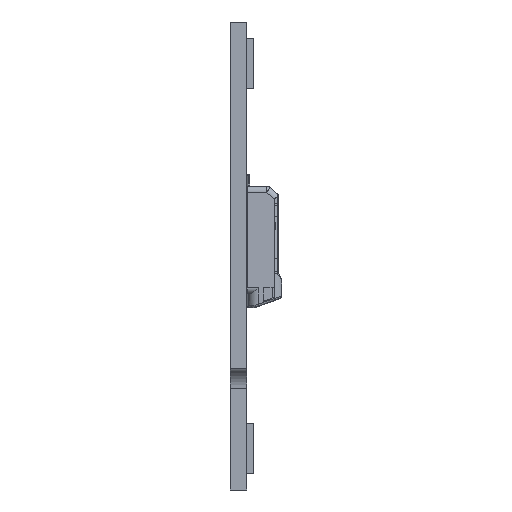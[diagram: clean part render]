
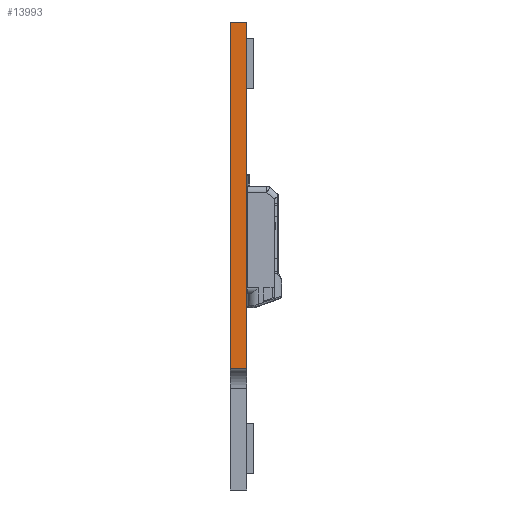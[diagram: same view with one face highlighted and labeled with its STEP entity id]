
A CAD part, left-side view. The second image highlights one B-rep face of the part: STEP entity #13993.
In plain terms, the highlighted planar face has unit normal (-1, 0, 0).
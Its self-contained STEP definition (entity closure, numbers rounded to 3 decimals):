
#1018=ORIENTED_EDGE('',*,*,#3948,.F.);
#1019=ORIENTED_EDGE('',*,*,#3993,.F.);
#1020=ORIENTED_EDGE('',*,*,#3986,.T.);
#1021=ORIENTED_EDGE('',*,*,#3992,.T.);
#3948=EDGE_CURVE('',#5448,#5449,#6403,.T.);
#3986=EDGE_CURVE('',#5487,#5486,#6415,.T.);
#3992=EDGE_CURVE('',#5486,#5449,#6421,.T.);
#3993=EDGE_CURVE('',#5487,#5448,#6422,.T.);
#5448=VERTEX_POINT('',#17955);
#5449=VERTEX_POINT('',#17957);
#5486=VERTEX_POINT('',#18042);
#5487=VERTEX_POINT('',#18044);
#6403=LINE('',#17956,#7350);
#6415=LINE('',#18043,#7362);
#6421=LINE('',#18054,#7368);
#6422=LINE('',#18056,#7369);
#7350=VECTOR('',#15432,1000.);
#7362=VECTOR('',#15518,1000.);
#7368=VECTOR('',#15528,1000.);
#7369=VECTOR('',#15531,1000.);
#8253=EDGE_LOOP('',(#1018,#1019,#1020,#1021));
#8916=FACE_BOUND('',#8253,.T.);
#9510=PLANE('',#14618);
#13993=ADVANCED_FACE('',(#8916),#9510,.T.);
#14618=AXIS2_PLACEMENT_3D('',#18055,#15529,#15530);
#15432=DIRECTION('',(0.,0.,-1.));
#15518=DIRECTION('',(0.,0.,-1.));
#15528=DIRECTION('',(0.,-1.,0.));
#15529=DIRECTION('',(-1.,0.,0.));
#15530=DIRECTION('',(0.,0.,1.));
#15531=DIRECTION('',(0.,-1.,0.));
#17955=CARTESIAN_POINT('',(-73.7,0.,23.1));
#17956=CARTESIAN_POINT('',(-73.7,0.,23.1));
#17957=CARTESIAN_POINT('',(-73.7,0.,-11.1));
#18042=CARTESIAN_POINT('',(-73.7,1.6,-11.1));
#18043=CARTESIAN_POINT('',(-73.7,1.6,23.1));
#18044=CARTESIAN_POINT('',(-73.7,1.6,23.1));
#18054=CARTESIAN_POINT('',(-73.7,1.6,-11.1));
#18055=CARTESIAN_POINT('',(-73.7,1.6,23.1));
#18056=CARTESIAN_POINT('',(-73.7,1.6,23.1));
